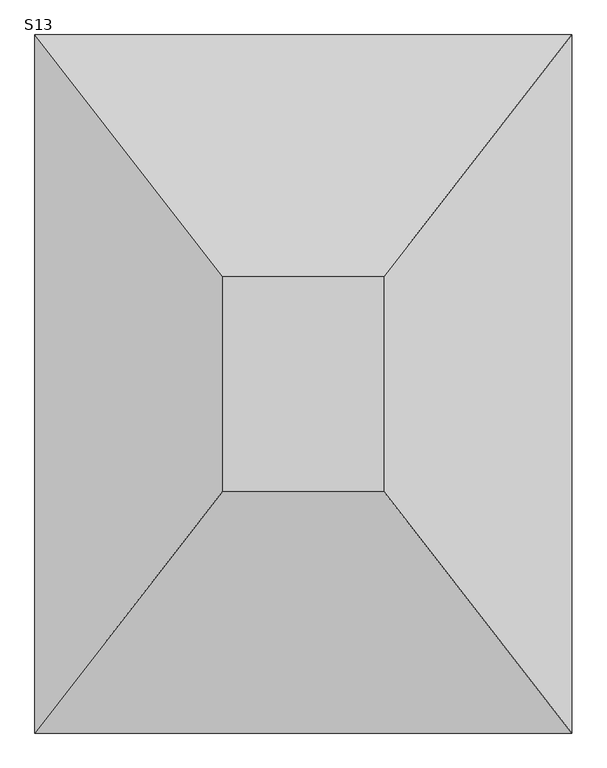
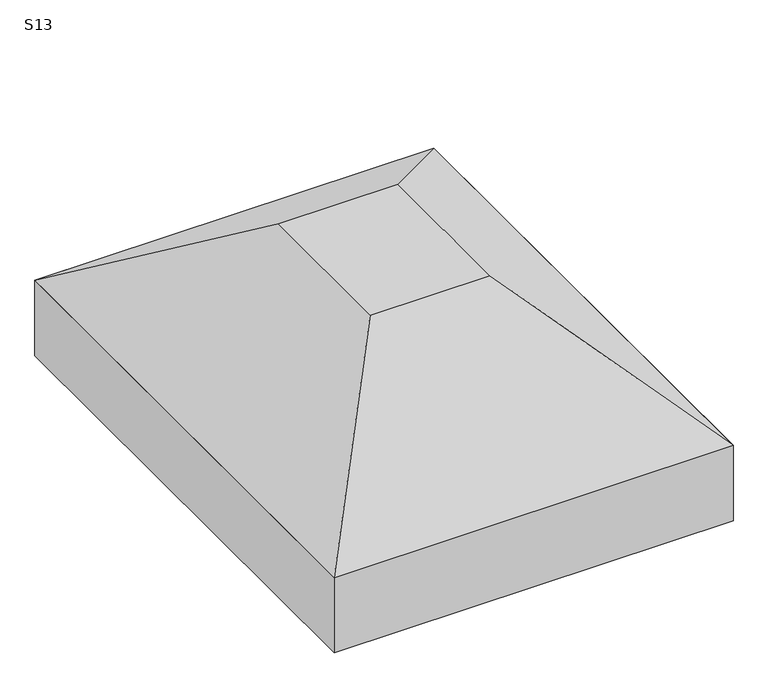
"""IFC4 building model written with IfcOpenShell, lengths in millimetres: fastener geometry, TQS - Sapata : S13."""

from ifc_helpers import new_model, si_unit, frame, origin, place, context, project, spatial, polyline, outline, extrude, faceted_brep, source, transform, mapped, element, save


def s13_7d6382ab(model_context):
    return source(origin(), model_context, "Body", "SolidModel", [
        faceted_brep([(-50.0, 0.0, 0.0), (-350.0, 0.0, 0.0), (-350.0, -400.0, 0.0), (-50.0, -400.0, 0.0), (300.0, 450.0, -300.0), (300.0, -850.0, -300.0), (-700.0, -850.0, -300.0), (-700.0, 450.0, -300.0)], [[[0, 1, 2, 3]], [[4, 5, 6, 7]], [[4, 7, 1, 0]], [[7, 6, 2, 1]], [[6, 5, 3, 2]], [[5, 4, 0, 3]]]),
        extrude(outline(polyline([(300.0, 450.0), (300.0, -850.0), (-700.0, -850.0), (-700.0, 450.0), (300.0, 450.0)])), frame((0.0, 0.0, -500.0), z_axis=(0.0, 0.0, 1.0), x_axis=(1.0, 0.0, 0.0)), (0.0, 0.0, 1.0), 200.0),
    ])


if __name__ == "__main__":
    model = new_model("IFC4")
    model_context = context("Model", 3, world=origin())
    ifc_project = project(units=[si_unit("LENGTHUNIT", "METRE", prefix="MILLI")], contexts=[model_context])
    site = spatial("IfcSite", under=ifc_project)
    building = spatial("IfcBuilding", under=site)
    placement = place(None, origin())
    s13_shape = s13_7d6382ab(model_context)
    element("IfcFastener", 1, ObjectType="TQS - Sapata : S13", at=placement, inside=building, context=model_context, shape_type="MappedRepresentation", body=[
        mapped(s13_shape, transform((0.0, 0.0, 0.0), x_axis=(1.0, 0.0, 0.0), y_axis=(0.0, 1.0, 0.0), z_axis=(0.0, 0.0, 1.0))),
    ])
    save(model, "model.ifc")
